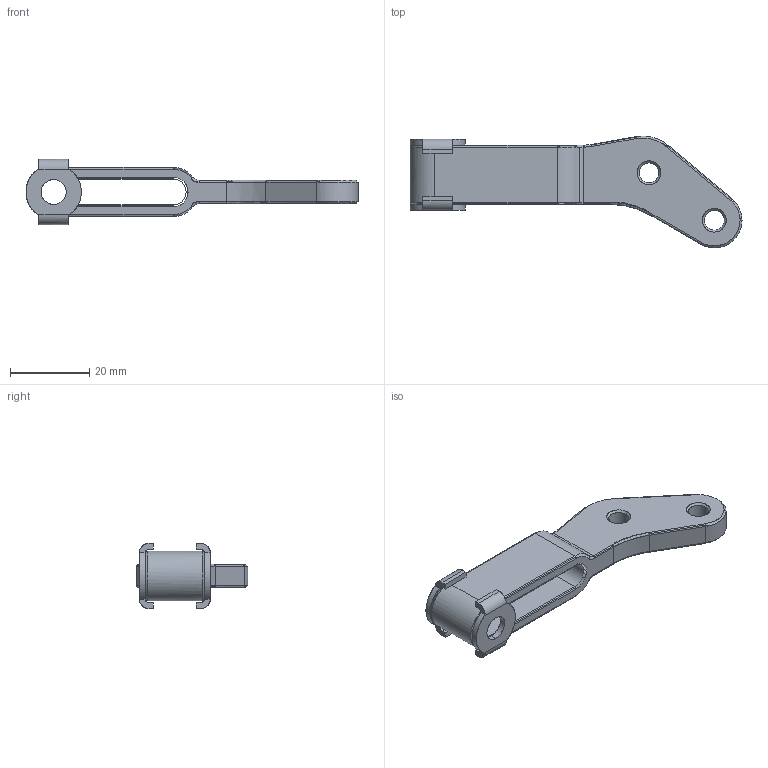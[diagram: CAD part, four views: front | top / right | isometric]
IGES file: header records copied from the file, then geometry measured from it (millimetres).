
Start section: Comment
Global section: file name: 70300pwd.igs; native system:  By Spatial Corp.; preprocessor: XPlus PS/IGES 3.0; author: Author; organization: Title; date: 20040423.104332; units: inch
Bounding box: 84 x 28.29 x 16.5 mm (x, y, z)
Surface area: 6110.3 mm2 (no closed solid volume)
Topology: 0 solids, 0 shells, 147 faces, 770 edges, 723 vertices
Faces by surface type: revolution 106, extrusion 41
